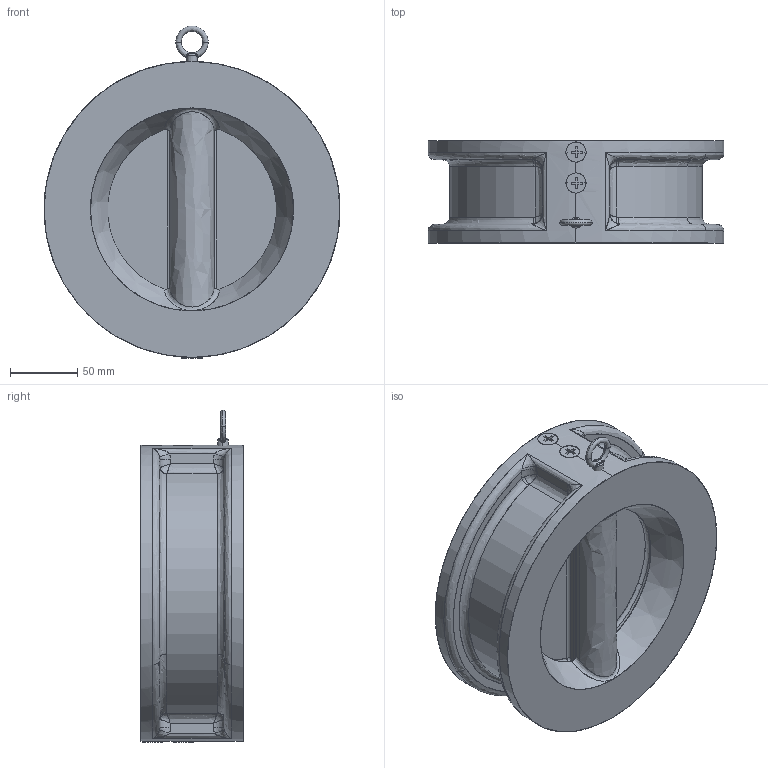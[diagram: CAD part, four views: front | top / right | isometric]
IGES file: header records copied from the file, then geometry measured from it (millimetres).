
Start section: SolidWorks IGES file using analytic representation for surfaces
Global section: file name: C:\Users\Administrator\Desktop\temp\00.IGS; native system: SolidWorks 2015; preprocessor: SolidWorks 2015; author: Administrator; date: 170404.074201; units: millimetre
Bounding box: 220 x 76 x 246.8 mm (x, y, z)
Surface area: 264367.2 mm2 (no closed solid volume)
Topology: 0 solids, 0 shells, 493 faces, 5668 edges, 5640 vertices
Faces by surface type: bspline 302, revolution 191
